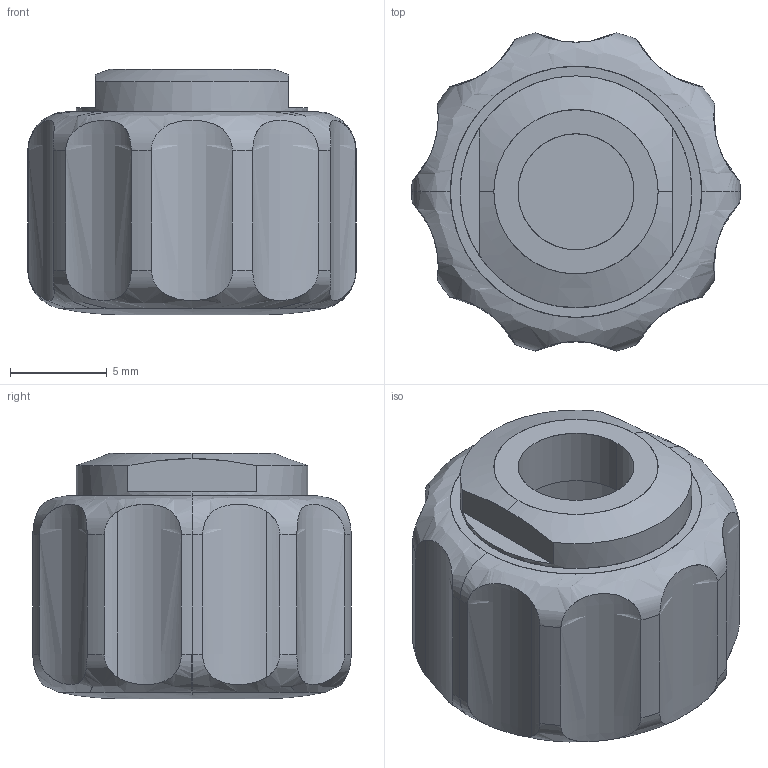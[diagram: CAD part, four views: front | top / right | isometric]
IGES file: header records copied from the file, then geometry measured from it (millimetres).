
Start section: SolidWorks IGES file using analytic representation for surfaces
Global section: file name: C:\Users\ThinkStation\Desktop\Dummys Easyknob\Easyknob Dummy M5.igs; native system: SolidWorks 2015; preprocessor: SolidWorks 2015; author: ThinkStation; date: 150122.103501; units: millimetre
Bounding box: 17 x 16.48 x 12.7 mm (x, y, z)
Surface area: 1383.1 mm2 (no closed solid volume)
Topology: 0 solids, 0 shells, 46 faces, 1022 edges, 1022 vertices
Faces by surface type: revolution 31, bspline 15
